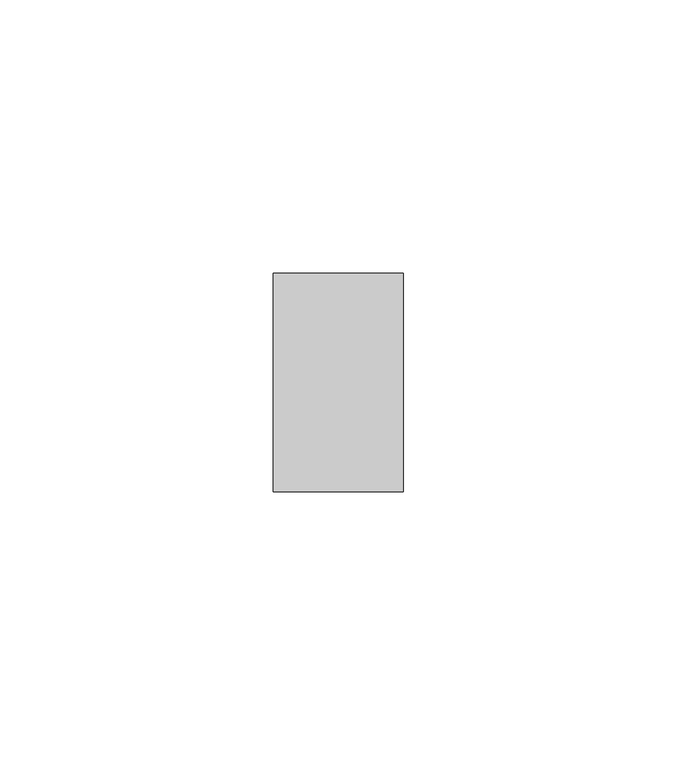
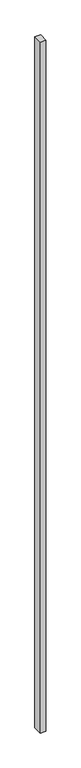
"""IFC4 building model written with IfcOpenShell, lengths in millimetres: plate geometry, Vitré."""

from ifc_helpers import new_model, si_unit, origin, origin_with_axes, place, context, project, spatial, polyline, outline, extrude, source, transform, mapped, element, save


def plate_62289fcd(model_context):
    return source(origin(), model_context, "Body", "SweptSolid", [
        extrude(outline(polyline([(-11.90625, -20.0), (-11.90625, 20.0), (11.90625, 20.0), (11.90625, -20.0), (-11.90625, -20.0)])), origin_with_axes(), (0.0, 0.0, 1.0), 3110.0),
    ])


if __name__ == "__main__":
    model = new_model("IFC4")
    model_context = context("Model", 3, world=origin())
    ifc_project = project(units=[si_unit("LENGTHUNIT", "METRE", prefix="MILLI")], contexts=[model_context])
    site = spatial("IfcSite", under=ifc_project)
    building = spatial("IfcBuilding", under=site)
    placement = place(None, origin())
    plate_shape = plate_62289fcd(model_context)
    element("IfcPlate", 1, ObjectType="Vitré", at=placement, inside=building, context=model_context, shape_type="MappedRepresentation", body=[
        mapped(plate_shape, transform((0.0, 0.0, 0.0), x_axis=(1.0, 0.0, 0.0), y_axis=(0.0, 1.0, 0.0), z_axis=(0.0, 0.0, 1.0))),
    ])
    save(model, "model.ifc")
